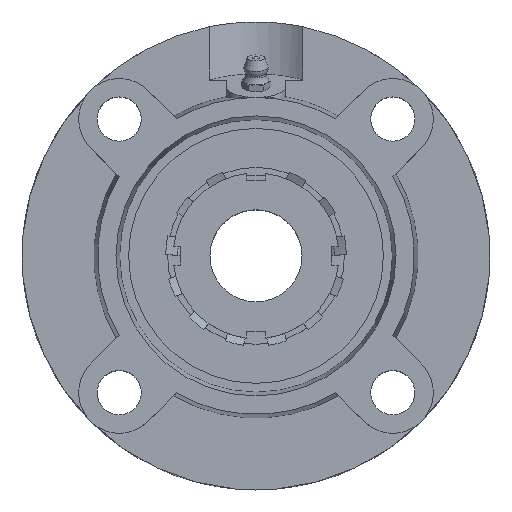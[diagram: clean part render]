
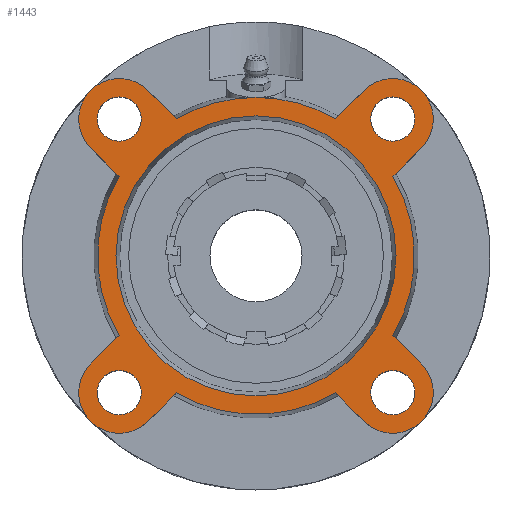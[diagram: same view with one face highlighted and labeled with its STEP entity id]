
A CAD part, top view. The second image highlights one B-rep face of the part: STEP entity #1443.
In plain terms, the highlighted planar face has unit normal (0, 0, 1).
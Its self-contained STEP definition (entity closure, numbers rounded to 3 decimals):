
#181=CARTESIAN_POINT('',(31.123,-37.123,14.5));
#182=VERTEX_POINT('',#181);
#183=CARTESIAN_POINT('',(37.123,-37.123,14.5));
#184=DIRECTION('',(0.0,0.0,-1.0));
#185=DIRECTION('',(1.0,0.0,0.0));
#186=AXIS2_PLACEMENT_3D('',#183,#184,#185);
#187=CIRCLE('',#186,6.);
#188=EDGE_CURVE('',#182,#182,#187,.T.);
#209=CARTESIAN_POINT('',(-43.123,37.123,14.5));
#210=VERTEX_POINT('',#209);
#211=CARTESIAN_POINT('',(-37.123,37.123,14.5));
#212=DIRECTION('',(0.0,0.0,-1.0));
#213=DIRECTION('',(1.0,0.0,0.0));
#214=AXIS2_PLACEMENT_3D('',#211,#212,#213);
#215=CIRCLE('',#214,6.);
#216=EDGE_CURVE('',#210,#210,#215,.T.);
#237=CARTESIAN_POINT('',(-43.123,-37.123,14.5));
#238=VERTEX_POINT('',#237);
#239=CARTESIAN_POINT('',(-37.123,-37.123,14.5));
#240=DIRECTION('',(0.0,0.0,-1.0));
#241=DIRECTION('',(1.0,0.0,0.0));
#242=AXIS2_PLACEMENT_3D('',#239,#240,#241);
#243=CIRCLE('',#242,6.);
#244=EDGE_CURVE('',#238,#238,#243,.T.);
#265=CARTESIAN_POINT('',(31.123,37.123,14.5));
#266=VERTEX_POINT('',#265);
#267=CARTESIAN_POINT('',(37.123,37.123,14.5));
#268=DIRECTION('',(0.0,0.0,-1.0));
#269=DIRECTION('',(1.0,0.0,0.0));
#270=AXIS2_PLACEMENT_3D('',#267,#268,#269);
#271=CIRCLE('',#270,6.);
#272=EDGE_CURVE('',#266,#266,#271,.T.);
#445=CARTESIAN_POINT('',(0.0,38.0,14.5));
#446=VERTEX_POINT('',#445);
#447=CARTESIAN_POINT('',(0.0,0.,14.5));
#448=DIRECTION('',(0.0,0.0,-1.0));
#449=DIRECTION('',(0.0,1.0,0.0));
#450=AXIS2_PLACEMENT_3D('',#447,#448,#449);
#451=CIRCLE('',#450,38.);
#452=EDGE_CURVE('',#446,#446,#451,.T.);
#722=CARTESIAN_POINT('',(0.,43.,14.5));
#723=VERTEX_POINT('',#722);
#845=CARTESIAN_POINT('',(-21.616,37.172,14.5));
#846=VERTEX_POINT('',#845);
#860=CARTESIAN_POINT('',(0.0,0.,14.5));
#861=DIRECTION('',(0.0,0.0,-1.0));
#862=DIRECTION('',(0.0,1.0,0.0));
#863=AXIS2_PLACEMENT_3D('',#860,#861,#862);
#864=CIRCLE('',#863,43.0);
#865=EDGE_CURVE('',#846,#723,#864,.T.);
#878=CARTESIAN_POINT('',(21.616,37.172,14.5));
#879=VERTEX_POINT('',#878);
#880=CARTESIAN_POINT('',(0.0,0.,14.5));
#881=DIRECTION('',(0.0,0.0,-1.0));
#882=DIRECTION('',(0.0,1.0,0.0));
#883=AXIS2_PLACEMENT_3D('',#880,#881,#882);
#884=CIRCLE('',#883,43.0);
#885=EDGE_CURVE('',#723,#879,#884,.T.);
#909=CARTESIAN_POINT('',(-37.172,21.616,14.5));
#910=VERTEX_POINT('',#909);
#926=CARTESIAN_POINT('',(-44.901,29.345,14.5));
#927=VERTEX_POINT('',#926);
#928=CARTESIAN_POINT('',(-37.172,21.616,14.5));
#929=DIRECTION('',(-0.707,0.707,0.0));
#930=VECTOR('',#929,10.931);
#931=LINE('',#928,#930);
#932=EDGE_CURVE('',#910,#927,#931,.T.);
#956=CARTESIAN_POINT('',(-21.616,-37.172,14.5));
#957=VERTEX_POINT('',#956);
#973=CARTESIAN_POINT('',(-29.345,-44.901,14.5));
#974=VERTEX_POINT('',#973);
#975=CARTESIAN_POINT('',(-21.616,-37.172,14.5));
#976=DIRECTION('',(-0.707,-0.707,0.0));
#977=VECTOR('',#976,10.931);
#978=LINE('',#975,#977);
#979=EDGE_CURVE('',#957,#974,#978,.T.);
#1003=CARTESIAN_POINT('',(37.172,-21.616,14.5));
#1004=VERTEX_POINT('',#1003);
#1020=CARTESIAN_POINT('',(44.901,-29.345,14.5));
#1021=VERTEX_POINT('',#1020);
#1022=CARTESIAN_POINT('',(37.172,-21.616,14.5));
#1023=DIRECTION('',(0.707,-0.707,0.0));
#1024=VECTOR('',#1023,10.931);
#1025=LINE('',#1022,#1024);
#1026=EDGE_CURVE('',#1004,#1021,#1025,.T.);
#1051=CARTESIAN_POINT('',(29.345,44.901,14.5));
#1052=VERTEX_POINT('',#1051);
#1053=CARTESIAN_POINT('',(21.616,37.172,14.5));
#1054=DIRECTION('',(0.707,0.707,0.0));
#1055=VECTOR('',#1054,10.931);
#1056=LINE('',#1053,#1055);
#1057=EDGE_CURVE('',#879,#1052,#1056,.T.);
#1076=CARTESIAN_POINT('',(21.616,-37.172,14.5));
#1077=VERTEX_POINT('',#1076);
#1099=CARTESIAN_POINT('',(29.345,-44.901,14.5));
#1100=VERTEX_POINT('',#1099);
#1107=CARTESIAN_POINT('',(29.345,-44.901,14.5));
#1108=DIRECTION('',(-0.707,0.707,0.0));
#1109=VECTOR('',#1108,10.931);
#1110=LINE('',#1107,#1109);
#1111=EDGE_CURVE('',#1100,#1077,#1110,.T.);
#1121=CARTESIAN_POINT('',(-44.901,-29.345,14.5));
#1122=VERTEX_POINT('',#1121);
#1123=CARTESIAN_POINT('',(-37.123,-37.123,14.5));
#1124=DIRECTION('',(0.0,0.0,-1.0));
#1125=DIRECTION('',(-0.629,0.777,0.0));
#1126=AXIS2_PLACEMENT_3D('',#1123,#1124,#1125);
#1127=CIRCLE('',#1126,11.);
#1128=EDGE_CURVE('',#974,#1122,#1127,.T.);
#1163=CARTESIAN_POINT('',(-37.172,-21.616,14.5));
#1164=VERTEX_POINT('',#1163);
#1185=CARTESIAN_POINT('',(-44.901,-29.345,14.5));
#1186=DIRECTION('',(0.707,0.707,0.0));
#1187=VECTOR('',#1186,10.931);
#1188=LINE('',#1185,#1187);
#1189=EDGE_CURVE('',#1122,#1164,#1188,.T.);
#1199=CARTESIAN_POINT('',(-29.345,44.901,14.5));
#1200=VERTEX_POINT('',#1199);
#1201=CARTESIAN_POINT('',(-37.123,37.123,14.5));
#1202=DIRECTION('',(0.0,0.0,-1.0));
#1203=DIRECTION('',(0.777,0.629,0.0));
#1204=AXIS2_PLACEMENT_3D('',#1201,#1202,#1203);
#1205=CIRCLE('',#1204,11.);
#1206=EDGE_CURVE('',#927,#1200,#1205,.T.);
#1234=CARTESIAN_POINT('',(-29.345,44.901,14.5));
#1235=DIRECTION('',(0.707,-0.707,0.0));
#1236=VECTOR('',#1235,10.931);
#1237=LINE('',#1234,#1236);
#1238=EDGE_CURVE('',#1200,#846,#1237,.T.);
#1248=CARTESIAN_POINT('',(44.901,29.345,14.5));
#1249=VERTEX_POINT('',#1248);
#1250=CARTESIAN_POINT('',(37.123,37.123,14.5));
#1251=DIRECTION('',(0.0,0.0,-1.0));
#1252=DIRECTION('',(0.629,-0.777,0.0));
#1253=AXIS2_PLACEMENT_3D('',#1250,#1251,#1252);
#1254=CIRCLE('',#1253,11.);
#1255=EDGE_CURVE('',#1052,#1249,#1254,.T.);
#1284=CARTESIAN_POINT('',(37.172,21.616,14.5));
#1285=VERTEX_POINT('',#1284);
#1306=CARTESIAN_POINT('',(44.901,29.345,14.5));
#1307=DIRECTION('',(-0.707,-0.707,0.0));
#1308=VECTOR('',#1307,10.931);
#1309=LINE('',#1306,#1308);
#1310=EDGE_CURVE('',#1249,#1285,#1309,.T.);
#1320=CARTESIAN_POINT('',(37.123,-37.123,14.5));
#1321=DIRECTION('',(0.0,0.0,-1.0));
#1322=DIRECTION('',(-0.777,-0.629,0.0));
#1323=AXIS2_PLACEMENT_3D('',#1320,#1321,#1322);
#1324=CIRCLE('',#1323,11.);
#1325=EDGE_CURVE('',#1021,#1100,#1324,.T.);
#1386=CARTESIAN_POINT('',(0.0,21.5,14.5));
#1387=DIRECTION('',(0.0,0.0,1.0));
#1388=DIRECTION('',(1.0,0.0,0.0));
#1389=AXIS2_PLACEMENT_3D('',#1386,#1387,#1388);
#1390=PLANE('',#1389);
#1391=CARTESIAN_POINT('',(0.0,0.,14.5));
#1392=DIRECTION('',(0.0,0.0,-1.0));
#1393=DIRECTION('',(0.0,1.0,0.0));
#1394=AXIS2_PLACEMENT_3D('',#1391,#1392,#1393);
#1395=CIRCLE('',#1394,43.0);
#1396=EDGE_CURVE('',#1077,#957,#1395,.T.);
#1397=ORIENTED_EDGE('',*,*,#1396,.F.);
#1398=ORIENTED_EDGE('',*,*,#1111,.F.);
#1399=ORIENTED_EDGE('',*,*,#1325,.F.);
#1400=ORIENTED_EDGE('',*,*,#1026,.F.);
#1401=CARTESIAN_POINT('',(0.0,0.,14.5));
#1402=DIRECTION('',(0.0,0.0,-1.0));
#1403=DIRECTION('',(0.0,1.0,0.0));
#1404=AXIS2_PLACEMENT_3D('',#1401,#1402,#1403);
#1405=CIRCLE('',#1404,43.0);
#1406=EDGE_CURVE('',#1285,#1004,#1405,.T.);
#1407=ORIENTED_EDGE('',*,*,#1406,.F.);
#1408=ORIENTED_EDGE('',*,*,#1310,.F.);
#1409=ORIENTED_EDGE('',*,*,#1255,.F.);
#1410=ORIENTED_EDGE('',*,*,#1057,.F.);
#1411=ORIENTED_EDGE('',*,*,#885,.F.);
#1412=ORIENTED_EDGE('',*,*,#865,.F.);
#1413=ORIENTED_EDGE('',*,*,#1238,.F.);
#1414=ORIENTED_EDGE('',*,*,#1206,.F.);
#1415=ORIENTED_EDGE('',*,*,#932,.F.);
#1416=CARTESIAN_POINT('',(0.0,0.,14.5));
#1417=DIRECTION('',(0.0,0.0,-1.0));
#1418=DIRECTION('',(0.0,1.0,0.0));
#1419=AXIS2_PLACEMENT_3D('',#1416,#1417,#1418);
#1420=CIRCLE('',#1419,43.0);
#1421=EDGE_CURVE('',#1164,#910,#1420,.T.);
#1422=ORIENTED_EDGE('',*,*,#1421,.F.);
#1423=ORIENTED_EDGE('',*,*,#1189,.F.);
#1424=ORIENTED_EDGE('',*,*,#1128,.F.);
#1425=ORIENTED_EDGE('',*,*,#979,.F.);
#1426=EDGE_LOOP('',(#1397,#1398,#1399,#1400,#1407,#1408,#1409,#1410,#1411,#1412,#1413,#1414,#1415,#1422,#1423,#1424,#1425));
#1427=FACE_OUTER_BOUND('',#1426,.T.);
#1428=ORIENTED_EDGE('',*,*,#188,.T.);
#1429=EDGE_LOOP('',(#1428));
#1430=FACE_BOUND('',#1429,.T.);
#1431=ORIENTED_EDGE('',*,*,#216,.T.);
#1432=EDGE_LOOP('',(#1431));
#1433=FACE_BOUND('',#1432,.T.);
#1434=ORIENTED_EDGE('',*,*,#244,.T.);
#1435=EDGE_LOOP('',(#1434));
#1436=FACE_BOUND('',#1435,.T.);
#1437=ORIENTED_EDGE('',*,*,#272,.T.);
#1438=EDGE_LOOP('',(#1437));
#1439=FACE_BOUND('',#1438,.T.);
#1440=ORIENTED_EDGE('',*,*,#452,.T.);
#1441=EDGE_LOOP('',(#1440));
#1442=FACE_BOUND('',#1441,.T.);
#1443=ADVANCED_FACE('',(#1427,#1430,#1433,#1436,#1439,#1442),#1390,.T.);
